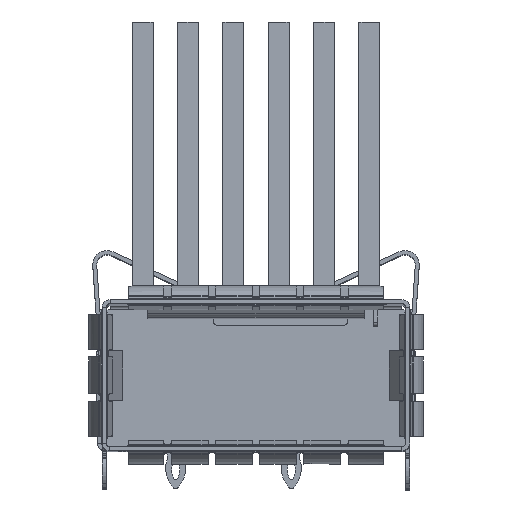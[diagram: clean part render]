
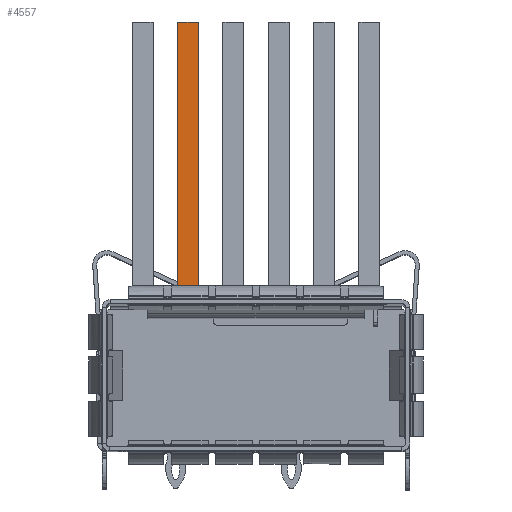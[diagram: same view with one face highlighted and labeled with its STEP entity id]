
A CAD part, top view. The second image highlights one B-rep face of the part: STEP entity #4557.
In plain terms, the highlighted planar face has unit normal (0, 0, 1).
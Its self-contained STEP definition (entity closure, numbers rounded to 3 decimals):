
#4557=ADVANCED_FACE('',(#8096),#5963,.T.);
#5963=PLANE('',#44134);
#8096=FACE_OUTER_BOUND('',#10451,.T.);
#10451=EDGE_LOOP('',(#20677,#20678,#20679,#20680));
#20677=ORIENTED_EDGE('',*,*,#31782,.T.);
#20678=ORIENTED_EDGE('',*,*,#31925,.T.);
#20679=ORIENTED_EDGE('',*,*,#31616,.F.);
#20680=ORIENTED_EDGE('',*,*,#31926,.T.);
#26177=VERTEX_POINT('',#70916);
#26180=VERTEX_POINT('',#70921);
#26299=VERTEX_POINT('',#71221);
#26301=VERTEX_POINT('',#71224);
#31616=EDGE_CURVE('',#26180,#26177,#35803,.T.);
#31782=EDGE_CURVE('',#26301,#26299,#35969,.T.);
#31925=EDGE_CURVE('',#26299,#26177,#36112,.T.);
#31926=EDGE_CURVE('',#26180,#26301,#36113,.T.);
#35803=LINE('',#70922,#39900);
#35969=LINE('',#71223,#40066);
#36112=LINE('',#71496,#40209);
#36113=LINE('',#71497,#40210);
#39900=VECTOR('',#53919,1.);
#40066=VECTOR('',#54115,1.);
#40209=VECTOR('',#54394,1.);
#40210=VECTOR('',#54395,1.);
#44134=AXIS2_PLACEMENT_3D('',#71498,#54396,#54397);
#53919=DIRECTION('',(-1.,0.,0.));
#54115=DIRECTION('',(-1.,0.,0.));
#54394=DIRECTION('',(0.,-1.,0.));
#54395=DIRECTION('',(0.,1.,0.));
#54396=DIRECTION('',(0.,0.,1.));
#54397=DIRECTION('',(0.,-1.,0.));
#70916=CARTESIAN_POINT('',(-4.88,0.9,30.32));
#70921=CARTESIAN_POINT('',(-3.58,0.9,30.32));
#70922=CARTESIAN_POINT('',(7.7,0.9,30.32));
#71221=CARTESIAN_POINT('',(-4.88,17.3,30.32));
#71223=CARTESIAN_POINT('',(0.,17.3,30.32));
#71224=CARTESIAN_POINT('',(-3.58,17.3,30.32));
#71496=CARTESIAN_POINT('',(-4.88,18.2,30.32));
#71497=CARTESIAN_POINT('',(-3.58,18.2,30.32));
#71498=CARTESIAN_POINT('',(7.7,18.2,30.32));
